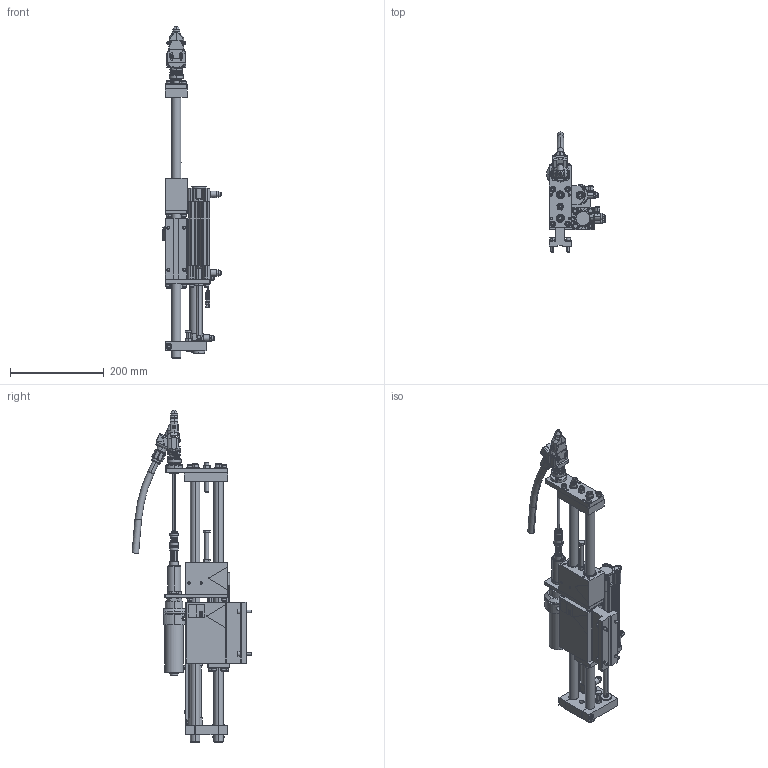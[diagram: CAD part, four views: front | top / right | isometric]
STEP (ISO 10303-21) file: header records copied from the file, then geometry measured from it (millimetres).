
FILE_DESCRIPTION (( 'STEP AP214' ), '1' );
FILE_NAME ('Z2AA.STEP', '2026-02-03T11:30:15', ( '' ), ( '' ), 'SwSTEP 2.0', 'SolidWorks 2022', '' );
FILE_SCHEMA (( 'AUTOMOTIVE_DESIGN' ));
Length unit declared in the file: millimetre
Products named in the file (1): Z2AA
Bounding box: 125.16 x 256.27 x 709.5 mm (x, y, z)
Surface area: 480459.6 mm2 (no closed solid volume)
Topology: 0 solids, 223 shells, 2154 faces, 6934 edges, 4892 vertices
Faces by surface type: plane 880, cylinder 788, cone 378, bspline 86, torus 20, sphere 2
Entity records: 112236 total; most frequent: CARTESIAN_POINT 27888, DIRECTION 13011, ORIENTED_EDGE 11184, EDGE_CURVE 6925, AXIS2_PLACEMENT_3D 4964, VERTEX_POINT 4889, LINE 3083, VECTOR 3083
